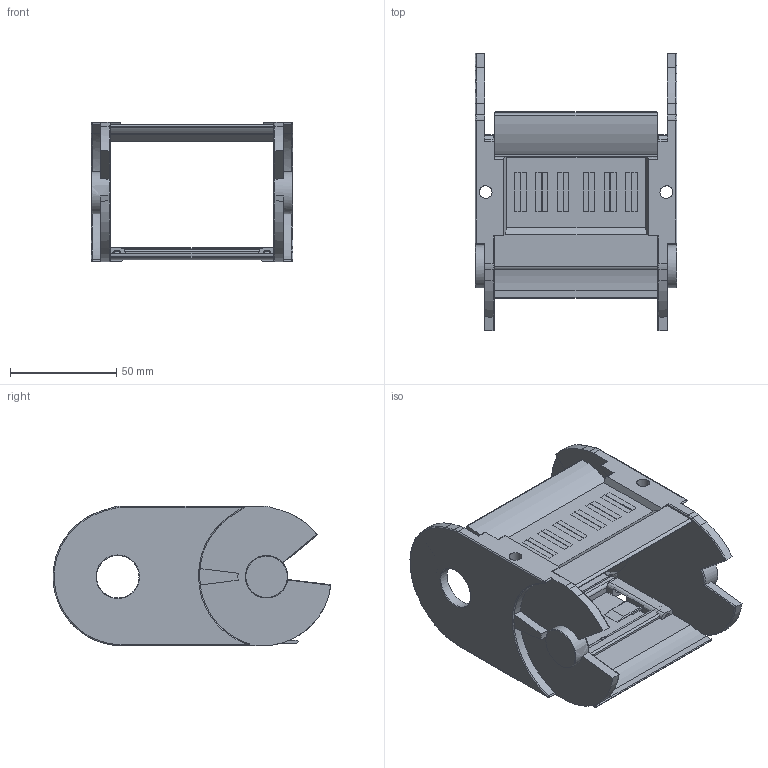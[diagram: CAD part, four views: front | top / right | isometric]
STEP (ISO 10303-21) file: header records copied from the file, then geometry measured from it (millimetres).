
FILE_DESCRIPTION((''),'2;1');
FILE_NAME('C:\Uebbing\PARAMETERKETTEN\KOLIBRI\Kol_65_095_5\Kol_65_095_5.stp','2012-03-06T08:32:10',('Uebbing'),(''),'Autodesk Inventor 10','Autodesk Inventor 10','');
FILE_SCHEMA(('AUTOMOTIVE_DESIGN { 1 0 10303 214 1 1 1 1 }'));
Length unit declared in the file: millimetre
Products named in the file (3): Kol_65_095_5; Kol_65_095_5 Klappdeckel; Kol_65_095_5 Lasche
Assembly tree (2 placements, depth 2):
  Kol_65_095_5
    Kol_65_095_5 Klappdeckel
    Kol_65_095_5 Lasche
Bounding box: 95 x 130.76 x 65.7 mm (x, y, z)
Volume: 102956.1 mm3; surface area: 66402 mm2
Topology: 2 solids, 2 shells, 586 faces, 1594 edges, 1019 vertices
Faces by surface type: plane 236, bspline 217, cylinder 108, torus 19, cone 4, sphere 2
Full cylindrical faces by diameter (mm): 2.514 x1, 4 x3, 4.414 x1, 6 x2, 20 x2
Entity records: 19796 total; most frequent: CARTESIAN_POINT 5537, ORIENTED_EDGE 3118, DIRECTION 2675, EDGE_CURVE 1559, VECTOR 1115, LINE 1115, VERTEX_POINT 1008, AXIS2_PLACEMENT_3D 780
